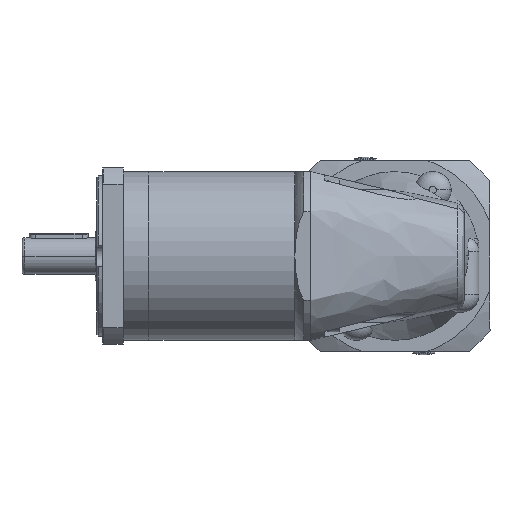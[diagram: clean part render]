
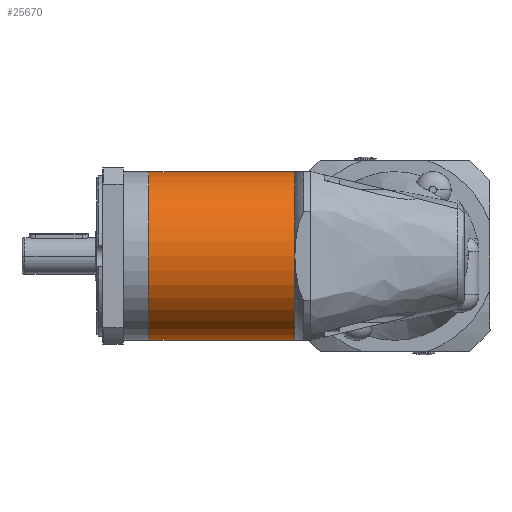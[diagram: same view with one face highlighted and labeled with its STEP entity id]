
A CAD part, front view. The second image highlights one B-rep face of the part: STEP entity #25670.
In plain terms, the highlighted cylindrical face has radius 57.5 mm (diameter 115 mm), a partial arc.
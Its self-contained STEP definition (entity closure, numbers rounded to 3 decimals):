
#757 = EDGE_CURVE ( 'NONE', #36154, #18389, #19889, .T. ) ;
#999 = CARTESIAN_POINT ( 'NONE',  ( 135., 0., -57.5 ) ) ;
#1326 = CARTESIAN_POINT ( 'NONE',  ( 35.5, 0., -57.5 ) ) ;
#2233 = EDGE_LOOP ( 'NONE', ( #4618, #30731, #9736, #5245 ) ) ;
#3964 = CARTESIAN_POINT ( 'NONE',  ( 135., 0., 57.5 ) ) ;
#4502 = EDGE_CURVE ( 'NONE', #23246, #26327, #26459, .T. ) ;
#4618 = ORIENTED_EDGE ( 'NONE', *, *, #24255, .F. ) ;
#4685 = EDGE_CURVE ( 'NONE', #26327, #18389, #21042, .T. ) ;
#5245 = ORIENTED_EDGE ( 'NONE', *, *, #757, .F. ) ;
#6270 = AXIS2_PLACEMENT_3D ( 'NONE', #35140, #6672, #37999 ) ;
#6672 = DIRECTION ( 'NONE',  ( 1., 0., 0. ) ) ;
#7314 = DIRECTION ( 'NONE',  ( -1., 0., 0. ) ) ;
#8365 = DIRECTION ( 'NONE',  ( -1., 0., 0. ) ) ;
#8465 = DIRECTION ( 'NONE',  ( -1., 0., 0. ) ) ;
#8690 = VECTOR ( 'NONE', #7314, 1000. ) ;
#9182 = DIRECTION ( 'NONE',  ( 0., 0., -1. ) ) ;
#9736 = ORIENTED_EDGE ( 'NONE', *, *, #4685, .T. ) ;
#11886 = CARTESIAN_POINT ( 'NONE',  ( 135., 0., 57.5 ) ) ;
#14979 = AXIS2_PLACEMENT_3D ( 'NONE', #17618, #8365, #9182 ) ;
#16331 = CYLINDRICAL_SURFACE ( 'NONE', #14979, 57.5 ) ;
#16841 = FACE_OUTER_BOUND ( 'NONE', #2233, .T. ) ;
#17618 = CARTESIAN_POINT ( 'NONE',  ( 135., 0., 0. ) ) ;
#18389 = VERTEX_POINT ( 'NONE', #1326 ) ;
#19889 = LINE ( 'NONE', #31830, #8690 ) ;
#21042 = CIRCLE ( 'NONE', #6270, 57.5 ) ;
#23246 = VERTEX_POINT ( 'NONE', #3964 ) ;
#24255 = EDGE_CURVE ( 'NONE', #23246, #36154, #28282, .T. ) ;
#25670 = ADVANCED_FACE ( 'NONE', ( #16841 ), #16331, .T. ) ;
#26327 = VERTEX_POINT ( 'NONE', #39495 ) ;
#26459 = LINE ( 'NONE', #11886, #40101 ) ;
#28282 = CIRCLE ( 'NONE', #37877, 57.5 ) ;
#29641 = DIRECTION ( 'NONE',  ( 1., 0., 0. ) ) ;
#30731 = ORIENTED_EDGE ( 'NONE', *, *, #4502, .T. ) ;
#31830 = CARTESIAN_POINT ( 'NONE',  ( 135., 0., -57.5 ) ) ;
#32498 = CARTESIAN_POINT ( 'NONE',  ( 135., 0., 0. ) ) ;
#35140 = CARTESIAN_POINT ( 'NONE',  ( 35.5, 0., 0. ) ) ;
#35625 = DIRECTION ( 'NONE',  ( 0., 0., 1. ) ) ;
#36154 = VERTEX_POINT ( 'NONE', #999 ) ;
#37877 = AXIS2_PLACEMENT_3D ( 'NONE', #32498, #29641, #35625 ) ;
#37999 = DIRECTION ( 'NONE',  ( 0., 0., 1. ) ) ;
#39495 = CARTESIAN_POINT ( 'NONE',  ( 35.5, 0., 57.5 ) ) ;
#40101 = VECTOR ( 'NONE', #8465, 1000. ) ;
